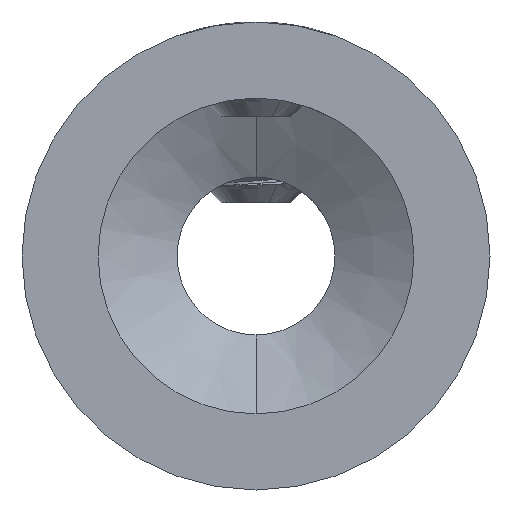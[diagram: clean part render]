
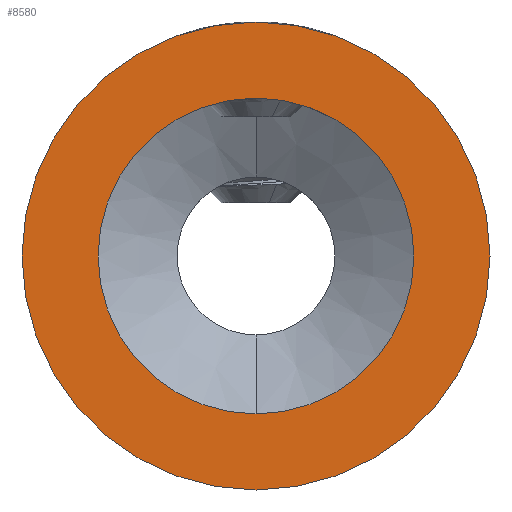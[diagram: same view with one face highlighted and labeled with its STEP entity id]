
A CAD part, front view. The second image highlights one B-rep face of the part: STEP entity #8580.
In plain terms, the highlighted planar face has unit normal (0, -1, 0).
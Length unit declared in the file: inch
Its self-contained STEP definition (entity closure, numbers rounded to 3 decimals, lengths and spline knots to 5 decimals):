
#90 = CIRCLE ( 'NONE', #7213, 0.23622 ) ;
#244 = FACE_BOUND ( 'NONE', #5965, .T. ) ;
#415 = CARTESIAN_POINT ( 'NONE',  ( 0., 0., 0.23622 ) ) ;
#517 = DIRECTION ( 'NONE',  ( 0., 0., 1. ) ) ;
#853 = CARTESIAN_POINT ( 'NONE',  ( 0., 0., 0. ) ) ;
#908 = CARTESIAN_POINT ( 'NONE',  ( 0., 0., 0.35 ) ) ;
#911 = FACE_OUTER_BOUND ( 'NONE', #9026, .T. ) ;
#994 = AXIS2_PLACEMENT_3D ( 'NONE', #5355, #8140, #1079 ) ;
#1079 = DIRECTION ( 'NONE',  ( 0., 0., 1. ) ) ;
#1423 = DIRECTION ( 'NONE',  ( 0., 1., 0. ) ) ;
#1731 = EDGE_CURVE ( 'NONE', #8588, #9127, #90, .T. ) ;
#2195 = CARTESIAN_POINT ( 'NONE',  ( 0., 0., 0. ) ) ;
#2230 = DIRECTION ( 'NONE',  ( 0., -1., 0. ) ) ;
#2268 = ORIENTED_EDGE ( 'NONE', *, *, #6048, .F. ) ;
#2348 = EDGE_CURVE ( 'NONE', #2400, #5599, #4489, .T. ) ;
#2400 = VERTEX_POINT ( 'NONE', #4579 ) ;
#2470 = ORIENTED_EDGE ( 'NONE', *, *, #1731, .F. ) ;
#3101 = EDGE_CURVE ( 'NONE', #9127, #8588, #5410, .T. ) ;
#3464 = DIRECTION ( 'NONE',  ( 0., 0., 1. ) ) ;
#4231 = AXIS2_PLACEMENT_3D ( 'NONE', #2195, #1423, #3464 ) ;
#4284 = ORIENTED_EDGE ( 'NONE', *, *, #2348, .F. ) ;
#4389 = AXIS2_PLACEMENT_3D ( 'NONE', #4784, #5424, #517 ) ;
#4489 = CIRCLE ( 'NONE', #994, 0.35 ) ;
#4533 = DIRECTION ( 'NONE',  ( 0., 0., -1. ) ) ;
#4579 = CARTESIAN_POINT ( 'NONE',  ( 0., 0., -0.35 ) ) ;
#4760 = ORIENTED_EDGE ( 'NONE', *, *, #3101, .F. ) ;
#4784 = CARTESIAN_POINT ( 'NONE',  ( 0., 0., 0. ) ) ;
#4994 = CIRCLE ( 'NONE', #4389, 0.35 ) ;
#5214 = CARTESIAN_POINT ( 'NONE',  ( 0., 0., 0. ) ) ;
#5355 = CARTESIAN_POINT ( 'NONE',  ( 0., 0., 0. ) ) ;
#5410 = CIRCLE ( 'NONE', #8022, 0.23622 ) ;
#5424 = DIRECTION ( 'NONE',  ( 0., 1., 0. ) ) ;
#5599 = VERTEX_POINT ( 'NONE', #908 ) ;
#5802 = DIRECTION ( 'NONE',  ( 0., 0., -1. ) ) ;
#5965 = EDGE_LOOP ( 'NONE', ( #2470, #4760 ) ) ;
#6048 = EDGE_CURVE ( 'NONE', #5599, #2400, #4994, .T. ) ;
#6357 = CARTESIAN_POINT ( 'NONE',  ( 0., 0., -0.23622 ) ) ;
#7213 = AXIS2_PLACEMENT_3D ( 'NONE', #853, #2230, #5802 ) ;
#7443 = DIRECTION ( 'NONE',  ( 0., -1., 0. ) ) ;
#8022 = AXIS2_PLACEMENT_3D ( 'NONE', #5214, #7443, #4533 ) ;
#8140 = DIRECTION ( 'NONE',  ( 0., 1., 0. ) ) ;
#8580 = ADVANCED_FACE ( 'NONE', ( #244, #911 ), #9106, .F. ) ;
#8588 = VERTEX_POINT ( 'NONE', #6357 ) ;
#9026 = EDGE_LOOP ( 'NONE', ( #4284, #2268 ) ) ;
#9106 = PLANE ( 'NONE',  #4231 ) ;
#9127 = VERTEX_POINT ( 'NONE', #415 ) ;
